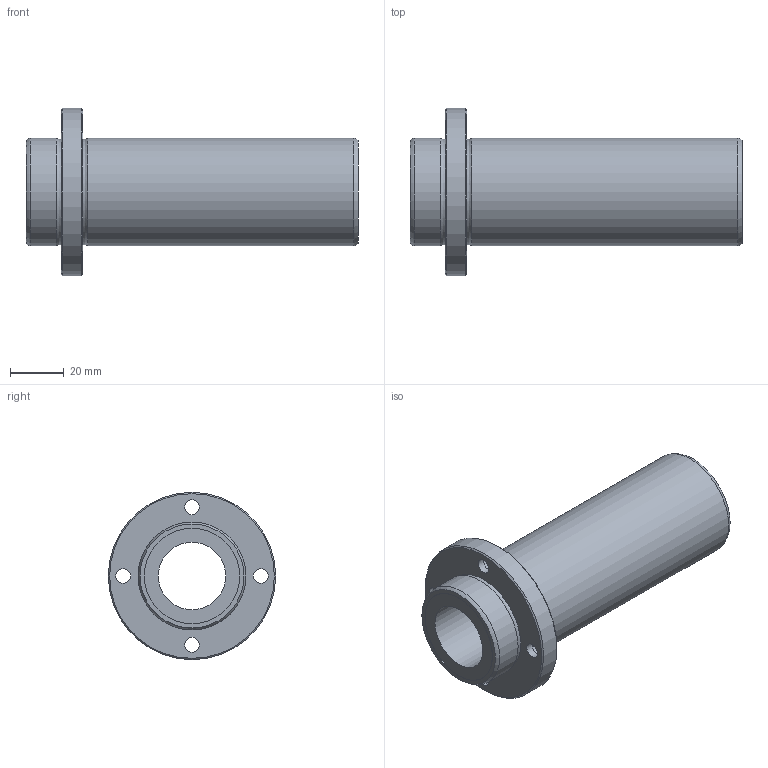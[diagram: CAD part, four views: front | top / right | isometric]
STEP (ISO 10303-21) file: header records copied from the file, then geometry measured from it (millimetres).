
FILE_DESCRIPTION((''),'2;1');
FILE_NAME('D:\製品 (図面)\カタログ用3D\メンテナンスフリー関連\STEP形式\LFDB-MF\LFDB25MF.stp','2010-06-01T15:38:15',('Tsuchiya'),(''),'Autodesk Inventor 10','Autodesk Inventor 10','');
FILE_SCHEMA(('AUTOMOTIVE_DESIGN { 1 0 10303 214 1 1 1 1 }'));
Length unit declared in the file: millimetre
Products named in the file (1): LFDB25MF
Bounding box: 123 x 62 x 62 mm (x, y, z)
Volume: 106247.7 mm3; surface area: 31201 mm2
Topology: 1 solids, 1 shells, 30 faces, 54 edges, 34 vertices
Faces by surface type: bspline 14, cylinder 6, plane 6, cone 2, torus 2
Full cylindrical faces by diameter (mm): 25 x1, 35.3 x2, 40 x2, 62 x1
Entity records: 907 total; most frequent: CARTESIAN_POINT 371, DIRECTION 102, ORIENTED_EDGE 68, EDGE_LOOP 68, AXIS2_PLACEMENT_3D 51, FACE_BOUND 38, VERTEX_POINT 34, CIRCLE 34
